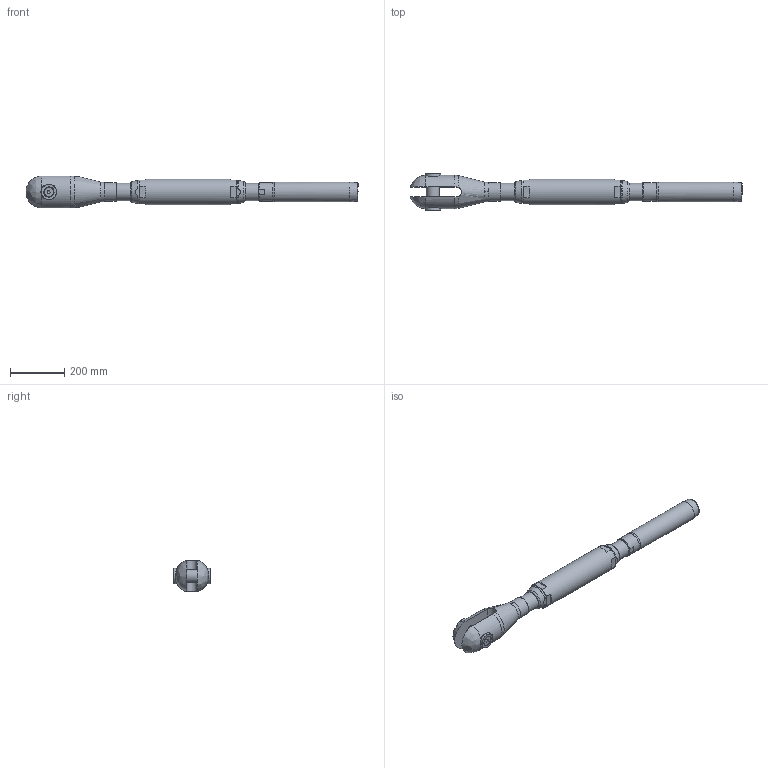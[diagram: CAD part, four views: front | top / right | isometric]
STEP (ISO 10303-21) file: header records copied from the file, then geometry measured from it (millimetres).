
FILE_DESCRIPTION(/* description */ (''),/* implementation_level */ '2;1');
FILE_NAME(/* name */ 'TBC 34_S355',/* time_stamp */ '2023-05-23T18:17:44+02:00',/* author */ (''),/* organization */ (''),/* preprocessor_version */ 'ST-DEVELOPER v16.5',/* originating_system */ 'Rhino 7.22',/* authorisation */ '');
FILE_SCHEMA (('CONFIG_CONTROL_DESIGN'));
Length unit declared in the file: millimetre
Products named in the file (1): Document
Bounding box: 1228.11 x 136.03 x 118.35 mm (x, y, z)
Volume: 6641314.2 mm3; surface area: 600385.1 mm2
Topology: 10 solids, 10 shells, 140 faces, 382 edges, 264 vertices
Faces by surface type: plane 65, bspline 40, cylinder 35
Full cylindrical faces by diameter (mm): 17.294 x2, 20 x2, 21 x2, 35.4 x2, 49 x1, 51 x2, 57 x2, 60.752 x4, 64 x2, 68 x1, 70 x2, 73.5 x1, 96 x1
Entity records: 5943 total; most frequent: CARTESIAN_POINT 3518, ORIENTED_EDGE 756, EDGE_CURVE 378, VERTEX_POINT 264, EDGE_LOOP 160, B_SPLINE_CURVE_WITH_KNOTS 157, ADVANCED_FACE 140, FACE_OUTER_BOUND 140
